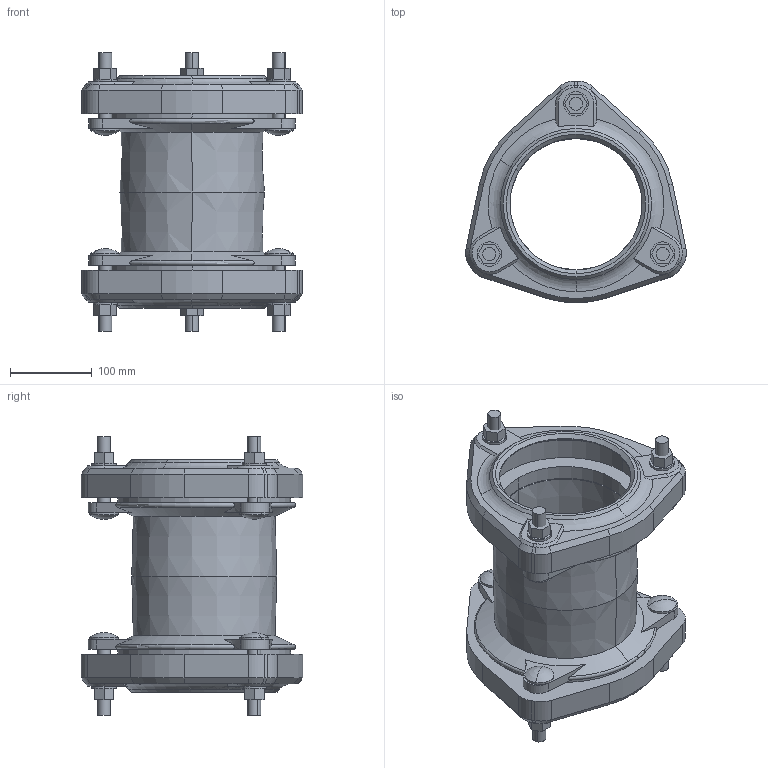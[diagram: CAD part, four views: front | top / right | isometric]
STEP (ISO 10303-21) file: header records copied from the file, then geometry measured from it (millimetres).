
FILE_DESCRIPTION((''),'2;1');
FILE_NAME('BIM_13198_6_ASM','2019-04-09T',('MReader'),(''),'CREO PARAMETRIC BY PTC INC, 2016130','CREO PARAMETRIC BY PTC INC, 2016130','');
FILE_SCHEMA(('CONFIG_CONTROL_DESIGN'));
Length unit declared in the file: millimetre
Products named in the file (3): BIM_12196_5; BIM_12198_5; BIM_13198_6_ASM
Assembly tree (3 placements, depth 2):
  BIM_13198_6_ASM
    BIM_12196_5
    BIM_12198_5  x2
Bounding box: 270.65 x 271.68 x 342 mm (x, y, z)
Volume: 2956629.2 mm3; surface area: 676590.5 mm2
Topology: 3 solids, 3 shells, 382 faces, 936 edges, 582 vertices
Faces by surface type: plane 198, cylinder 98, cone 66, sphere 12, torus 8
Entity records: 7314 total; most frequent: CARTESIAN_POINT 1544, DIRECTION 1252, ORIENTED_EDGE 1146, EDGE_CURVE 573, AXIS2_PLACEMENT_3D 472, VERTEX_POINT 362, VECTOR 308, LINE 308
